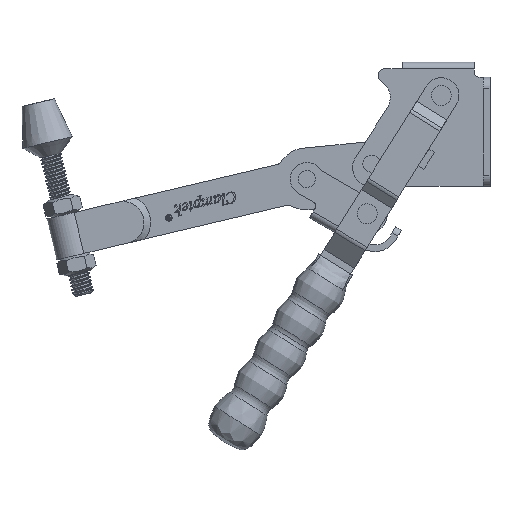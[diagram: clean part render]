
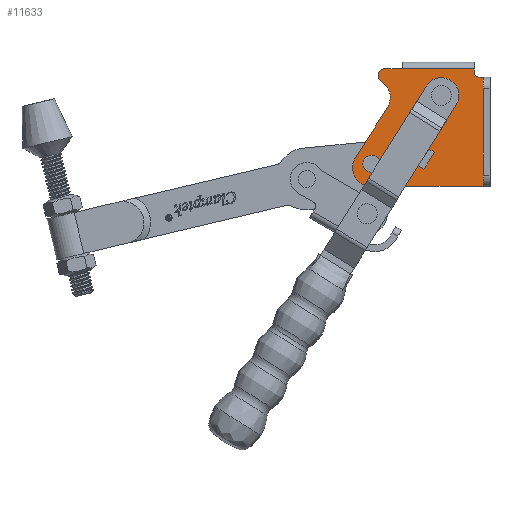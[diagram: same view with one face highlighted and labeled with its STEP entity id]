
A CAD part, left-side view. The second image highlights one B-rep face of the part: STEP entity #11633.
In plain terms, the highlighted planar face has unit normal (-1, 0, 0).
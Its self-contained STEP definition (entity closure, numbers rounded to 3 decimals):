
#852=FACE_BOUND('',#1949,.T.);
#853=FACE_BOUND('',#1950,.T.);
#854=FACE_BOUND('',#1951,.T.);
#956=PLANE('',#12649);
#1291=FACE_OUTER_BOUND('',#1948,.T.);
#1948=EDGE_LOOP('',(#8417,#8418,#8419,#8420,#8421,#8422,#8423,#8424,#8425,
#8426,#8427,#8428));
#1949=EDGE_LOOP('',(#8429,#8430,#8431,#8432,#8433,#8434));
#1950=EDGE_LOOP('',(#8435,#8436));
#1951=EDGE_LOOP('',(#8437,#8438));
#2692=LINE('',#17594,#3666);
#2704=LINE('',#17629,#3678);
#2705=LINE('',#17630,#3679);
#2706=LINE('',#17632,#3680);
#2707=LINE('',#17636,#3681);
#2708=LINE('',#17640,#3682);
#2709=LINE('',#17643,#3683);
#2710=LINE('',#17645,#3684);
#2711=LINE('',#17649,#3685);
#2712=LINE('',#17651,#3686);
#2713=LINE('',#17653,#3687);
#2714=LINE('',#17655,#3688);
#2715=LINE('',#17657,#3689);
#2716=LINE('',#17658,#3690);
#3666=VECTOR('',#13839,1000.);
#3678=VECTOR('',#13869,1000.);
#3679=VECTOR('',#13870,1000.);
#3680=VECTOR('',#13871,1000.);
#3681=VECTOR('',#13874,1000.);
#3682=VECTOR('',#13877,1000.);
#3683=VECTOR('',#13880,1000.);
#3684=VECTOR('',#13881,1000.);
#3685=VECTOR('',#13884,1000.);
#3686=VECTOR('',#13885,1000.);
#3687=VECTOR('',#13886,1000.);
#3688=VECTOR('',#13887,1000.);
#3689=VECTOR('',#13888,1000.);
#3690=VECTOR('',#13889,1000.);
#4602=CIRCLE('',#12614,4.75);
#4603=CIRCLE('',#12615,4.75);
#4610=CIRCLE('',#12624,3.2);
#4611=CIRCLE('',#12625,3.2);
#4628=CIRCLE('',#12650,3.);
#4629=CIRCLE('',#12651,8.5);
#4630=CIRCLE('',#12652,8.5);
#4631=CIRCLE('',#12653,2.);
#5008=VERTEX_POINT('',#17497);
#5009=VERTEX_POINT('',#17498);
#5016=VERTEX_POINT('',#17517);
#5017=VERTEX_POINT('',#17518);
#5050=VERTEX_POINT('',#17591);
#5051=VERTEX_POINT('',#17593);
#5063=VERTEX_POINT('',#17623);
#5064=VERTEX_POINT('',#17627);
#5065=VERTEX_POINT('',#17628);
#5066=VERTEX_POINT('',#17631);
#5067=VERTEX_POINT('',#17633);
#5068=VERTEX_POINT('',#17635);
#5069=VERTEX_POINT('',#17637);
#5070=VERTEX_POINT('',#17639);
#5071=VERTEX_POINT('',#17642);
#5072=VERTEX_POINT('',#17644);
#5073=VERTEX_POINT('',#17647);
#5074=VERTEX_POINT('',#17648);
#5075=VERTEX_POINT('',#17650);
#5076=VERTEX_POINT('',#17652);
#5077=VERTEX_POINT('',#17654);
#5078=VERTEX_POINT('',#17656);
#6296=EDGE_CURVE('',#5008,#5009,#4602,.T.);
#6297=EDGE_CURVE('',#5009,#5008,#4603,.T.);
#6306=EDGE_CURVE('',#5016,#5017,#4610,.T.);
#6307=EDGE_CURVE('',#5017,#5016,#4611,.T.);
#6343=EDGE_CURVE('',#5051,#5050,#2692,.T.);
#6360=EDGE_CURVE('',#5064,#5065,#2704,.T.);
#6361=EDGE_CURVE('',#5065,#5063,#2705,.T.);
#6362=EDGE_CURVE('',#5063,#5066,#2706,.T.);
#6363=EDGE_CURVE('',#5066,#5067,#4628,.T.);
#6364=EDGE_CURVE('',#5067,#5068,#2707,.T.);
#6365=EDGE_CURVE('',#5068,#5069,#4629,.T.);
#6366=EDGE_CURVE('',#5069,#5070,#2708,.T.);
#6367=EDGE_CURVE('',#5070,#5051,#4630,.T.);
#6368=EDGE_CURVE('',#5071,#5050,#2709,.T.);
#6369=EDGE_CURVE('',#5071,#5072,#2710,.T.);
#6370=EDGE_CURVE('',#5072,#5064,#4631,.T.);
#6371=EDGE_CURVE('',#5073,#5074,#2711,.T.);
#6372=EDGE_CURVE('',#5074,#5075,#2712,.T.);
#6373=EDGE_CURVE('',#5075,#5076,#2713,.T.);
#6374=EDGE_CURVE('',#5076,#5077,#2714,.T.);
#6375=EDGE_CURVE('',#5077,#5078,#2715,.T.);
#6376=EDGE_CURVE('',#5078,#5073,#2716,.T.);
#8417=ORIENTED_EDGE('',*,*,#6360,.T.);
#8418=ORIENTED_EDGE('',*,*,#6361,.T.);
#8419=ORIENTED_EDGE('',*,*,#6362,.T.);
#8420=ORIENTED_EDGE('',*,*,#6363,.T.);
#8421=ORIENTED_EDGE('',*,*,#6364,.T.);
#8422=ORIENTED_EDGE('',*,*,#6365,.T.);
#8423=ORIENTED_EDGE('',*,*,#6366,.T.);
#8424=ORIENTED_EDGE('',*,*,#6367,.T.);
#8425=ORIENTED_EDGE('',*,*,#6343,.T.);
#8426=ORIENTED_EDGE('',*,*,#6368,.F.);
#8427=ORIENTED_EDGE('',*,*,#6369,.T.);
#8428=ORIENTED_EDGE('',*,*,#6370,.T.);
#8429=ORIENTED_EDGE('',*,*,#6371,.T.);
#8430=ORIENTED_EDGE('',*,*,#6372,.T.);
#8431=ORIENTED_EDGE('',*,*,#6373,.T.);
#8432=ORIENTED_EDGE('',*,*,#6374,.T.);
#8433=ORIENTED_EDGE('',*,*,#6375,.T.);
#8434=ORIENTED_EDGE('',*,*,#6376,.T.);
#8435=ORIENTED_EDGE('',*,*,#6296,.T.);
#8436=ORIENTED_EDGE('',*,*,#6297,.T.);
#8437=ORIENTED_EDGE('',*,*,#6306,.T.);
#8438=ORIENTED_EDGE('',*,*,#6307,.T.);
#11633=ADVANCED_FACE('',(#1291,#852,#853,#854),#956,.F.);
#12614=AXIS2_PLACEMENT_3D('',#17499,#13759,#13760);
#12615=AXIS2_PLACEMENT_3D('',#17500,#13761,#13762);
#12624=AXIS2_PLACEMENT_3D('',#17519,#13781,#13782);
#12625=AXIS2_PLACEMENT_3D('',#17520,#13783,#13784);
#12649=AXIS2_PLACEMENT_3D('',#17626,#13867,#13868);
#12650=AXIS2_PLACEMENT_3D('',#17634,#13872,#13873);
#12651=AXIS2_PLACEMENT_3D('',#17638,#13875,#13876);
#12652=AXIS2_PLACEMENT_3D('',#17641,#13878,#13879);
#12653=AXIS2_PLACEMENT_3D('',#17646,#13882,#13883);
#13759=DIRECTION('center_axis',(1.,0.,0.));
#13760=DIRECTION('ref_axis',(0.,0.,-1.));
#13761=DIRECTION('center_axis',(1.,0.,0.));
#13762=DIRECTION('ref_axis',(0.,0.,-1.));
#13781=DIRECTION('center_axis',(1.,0.,0.));
#13782=DIRECTION('ref_axis',(0.,0.,-1.));
#13783=DIRECTION('center_axis',(1.,0.,0.));
#13784=DIRECTION('ref_axis',(0.,0.,-1.));
#13839=DIRECTION('',(0.,-1.,0.));
#13867=DIRECTION('center_axis',(1.,0.,0.));
#13868=DIRECTION('ref_axis',(0.,0.,-1.));
#13869=DIRECTION('',(0.,0.,1.));
#13870=DIRECTION('',(0.,1.,0.));
#13871=DIRECTION('',(0.,1.,0.));
#13872=DIRECTION('center_axis',(-1.,0.,0.));
#13873=DIRECTION('ref_axis',(0.,0.,-1.));
#13874=DIRECTION('',(0.,-0.76,-0.65));
#13875=DIRECTION('center_axis',(1.,0.,0.));
#13876=DIRECTION('ref_axis',(0.,0.,-1.));
#13877=DIRECTION('',(0.,0.54,-0.842));
#13878=DIRECTION('center_axis',(-1.,0.,0.));
#13879=DIRECTION('ref_axis',(0.,0.,-1.));
#13880=DIRECTION('',(0.,0.,-1.));
#13881=DIRECTION('',(0.,1.,0.));
#13882=DIRECTION('center_axis',(1.,0.,0.));
#13883=DIRECTION('ref_axis',(0.,0.,-1.));
#13884=DIRECTION('',(0.,0.53,-0.848));
#13885=DIRECTION('',(0.,0.848,0.53));
#13886=DIRECTION('',(0.,0.848,0.53));
#13887=DIRECTION('',(0.,-0.53,0.848));
#13888=DIRECTION('',(0.,-0.848,-0.53));
#13889=DIRECTION('',(0.,-0.869,-0.495));
#17497=CARTESIAN_POINT('',(-7.,22.,36.25));
#17498=CARTESIAN_POINT('',(-7.,22.,45.75));
#17499=CARTESIAN_POINT('Origin',(-7.,22.,41.));
#17500=CARTESIAN_POINT('Origin',(-7.,22.,41.));
#17517=CARTESIAN_POINT('',(-7.,53.5,7.));
#17518=CARTESIAN_POINT('',(-7.,53.5,13.4));
#17519=CARTESIAN_POINT('Origin',(-7.,53.5,10.2));
#17520=CARTESIAN_POINT('Origin',(-7.,53.5,10.2));
#17591=CARTESIAN_POINT('',(-7.,3.,0.));
#17593=CARTESIAN_POINT('',(-7.,53.5,0.));
#17594=CARTESIAN_POINT('',(-7.,3.,0.));
#17623=CARTESIAN_POINT('',(-7.,39.5,53.));
#17626=CARTESIAN_POINT('Origin',(-7.,3.,56.));
#17627=CARTESIAN_POINT('',(-7.,7.,51.2));
#17628=CARTESIAN_POINT('',(-7.,7.,53.));
#17629=CARTESIAN_POINT('',(-7.,7.,56.));
#17630=CARTESIAN_POINT('',(-7.,39.5,53.));
#17631=CARTESIAN_POINT('',(-7.,47.5,53.));
#17632=CARTESIAN_POINT('',(-7.,3.,53.));
#17633=CARTESIAN_POINT('',(-7.,49.449,47.72));
#17634=CARTESIAN_POINT('Origin',(-7.,47.5,50.));
#17635=CARTESIAN_POINT('',(-7.,47.977,46.461));
#17636=CARTESIAN_POINT('',(-7.,26.699,28.274));
#17637=CARTESIAN_POINT('',(-7.,46.344,35.413));
#17638=CARTESIAN_POINT('Origin',(-7.,53.5,40.));
#17639=CARTESIAN_POINT('',(-7.,60.656,13.087));
#17640=CARTESIAN_POINT('',(-7.,24.366,69.697));
#17641=CARTESIAN_POINT('Origin',(-7.,53.5,8.5));
#17642=CARTESIAN_POINT('',(-7.,3.,49.2));
#17643=CARTESIAN_POINT('',(-7.,3.,56.));
#17644=CARTESIAN_POINT('',(-7.,5.,49.2));
#17645=CARTESIAN_POINT('',(-7.,3.,49.2));
#17646=CARTESIAN_POINT('Origin',(-7.,5.,51.2));
#17647=CARTESIAN_POINT('',(-7.,25.069,15.332));
#17648=CARTESIAN_POINT('',(-7.,29.839,7.7));
#17649=CARTESIAN_POINT('',(-7.,29.839,7.7));
#17650=CARTESIAN_POINT('',(-7.,32.383,9.29));
#17651=CARTESIAN_POINT('',(-7.,29.839,7.7));
#17652=CARTESIAN_POINT('',(-7.,36.447,11.829));
#17653=CARTESIAN_POINT('',(-7.,32.243,9.202));
#17654=CARTESIAN_POINT('',(-7.,31.743,19.357));
#17655=CARTESIAN_POINT('',(-7.,7.204,58.627));
#17656=CARTESIAN_POINT('',(-7.,27.679,16.818));
#17657=CARTESIAN_POINT('',(-7.,27.538,16.73));
#17658=CARTESIAN_POINT('',(-7.,25.069,15.332));
